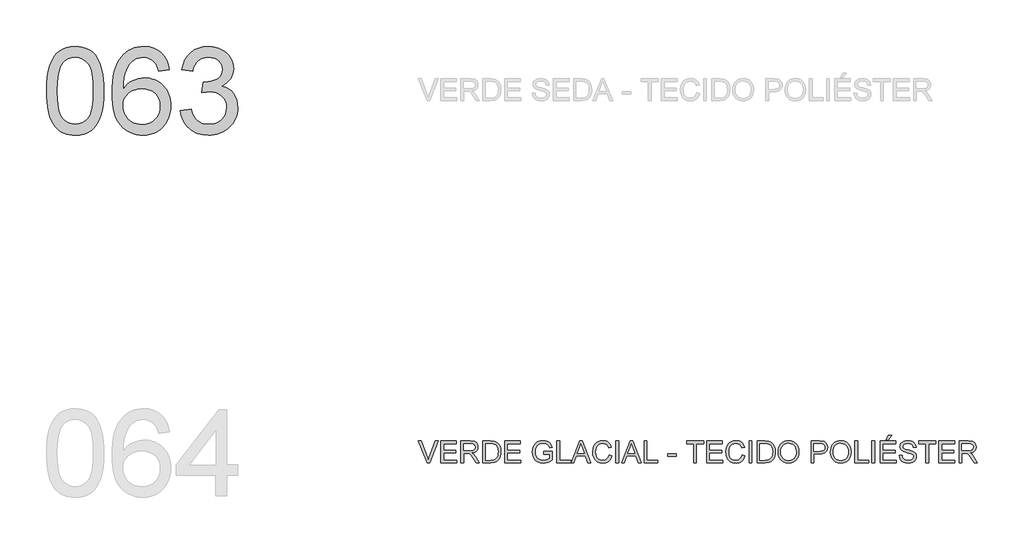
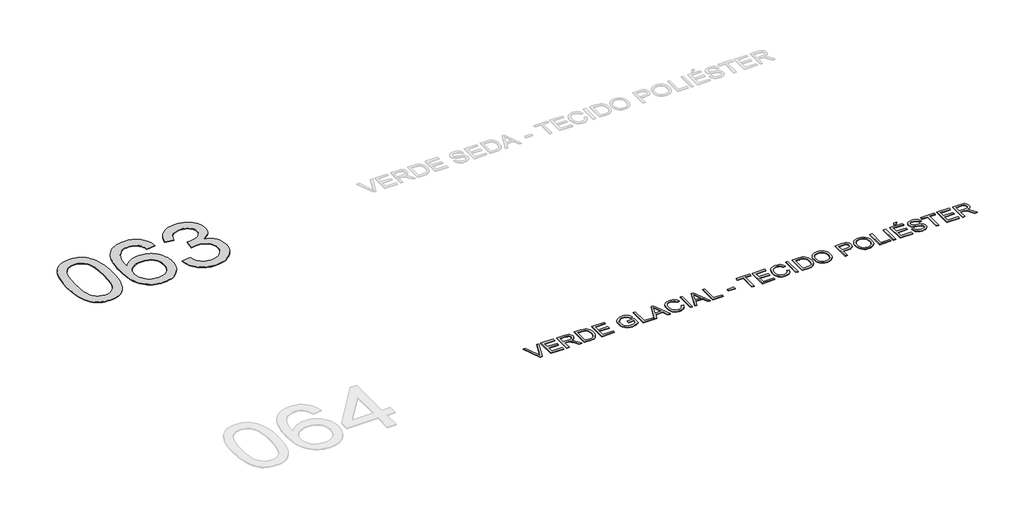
# One storey, part 39 of 67: 2 proxies.
"""IFC4 building model written with IfcOpenShell, lengths in millimetres."""

from ifc_helpers import new_model, si_unit, origin, origin_with_axes, place, context, project, spatial, polyline, outline, extrude, element, save

model = new_model("IFC4")

# Units and contexts
model_context = context("Model", 3, world=origin())
ifc_project = project(units=[si_unit("LENGTHUNIT", "METRE", prefix="MILLI")], contexts=[model_context])

# Site, building, storey
site = spatial("IfcSite", under=ifc_project)
building = spatial("IfcBuilding", under=site)
storey = spatial("IfcBuildingStorey", under=building, Name="Marelli - Linha COLAB - Planta Baixa", Elevation=0.0)

# Proxies
placement = place(None, origin())
element("IfcBuildingElementProxy", 1, Name="1200mm Arial", ObjectType="1200mm Arial", at=placement, inside=storey, context=model_context, shape_type="SweptSolid", body=[
    extrude(outline(polyline([(-275.30917, -72395.792664), (-272.540858, -72294.4319773), (-264.2359219, -72202.8385576), (-250.3943618, -72121.0124048), (-231.0161777, -72048.953519), (-206.1841431, -71986.073289), (-175.9810313, -71931.7831035), (-140.4068423, -71886.0829627), (-99.4615763, -71848.9728664), (-53.0072773, -71820.2596767), (-0.9059898, -71799.7502555), (56.8422864, -71787.4446027), (120.2375512, -71783.3427185), (167.8782696, -71785.7707396), (213.0909668, -71793.0548031), (255.8756429, -71805.194909), (296.2322977, -71822.1910572), (333.1860442, -71843.7581391), (365.7619948, -71869.6110463), (393.9601498, -71899.7497788), (417.7805089, -71934.1743365), (438.4186889, -71972.7467637), (457.070306, -72015.3291046), (488.413852, -72112.5235278), (500.388411, -72169.6831928), (508.9416673, -72235.9479371), (514.0736212, -72311.3177609), (515.7842725, -72395.792664), (513.0435516, -72496.5095573), (504.821389, -72587.6431245), (491.1177847, -72669.1933658), (471.9327386, -72741.1602811), (447.293842, -72804.0681023), (417.228686, -72858.4410612), (381.7372705, -72904.2791578), (340.8195956, -72941.5823921), (294.3101143, -72970.4887199), (242.0432798, -72991.1360968), (184.0190922, -73003.524523), (120.2375512, -73007.6539984), (77.5632398, -73005.8605737), (37.2433731, -73000.4802995), (-0.7220488, -72991.5131759), (-36.3330259, -72978.9592028), (-69.5895583, -72962.8183803), (-100.4916459, -72943.0907083), (-129.0392887, -72919.7761868), (-155.2324867, -72892.8748159), (-183.3754594, -72850.2786794), (-207.7660357, -72802.0999336), (-228.4042156, -72748.3385785), (-245.2899992, -72688.9946142), (-258.4233864, -72624.0680406), (-267.8043773, -72553.5588577), (-273.4329718, -72477.4670655), (-275.30917, -72395.792664)]), holes=[polyline([(-124.6247047, -72395.4983584), (-120.2101208, -72526.4919399), (-106.966369, -72632.5247279), (-97.0335551, -72676.1808245), (-84.8934493, -72713.5967226), (-70.5460515, -72744.7724225), (-53.9913617, -72769.7079239), (-16.614551, -72807.884878), (24.8825381, -72835.1541309), (70.4999055, -72851.5156826), (120.2375512, -72856.9695332), (169.975197, -72851.4972885), (215.5925644, -72835.0805545), (257.0896535, -72807.7193311), (294.4664642, -72769.4136183), (311.0211539, -72744.418336), (325.3685518, -72713.2104465), (337.5086576, -72675.7899498), (347.4414715, -72632.1568459), (360.6852233, -72526.2528166), (365.0998072, -72395.4983584), (360.8323761, -72267.9720648), (348.0300827, -72163.8062779), (338.4283626, -72120.4835744), (326.6929269, -72083.0009976), (312.8237757, -72051.3585475), (296.8209089, -72025.5562241), (260.0694976, -71985.5122689), (218.094162, -71956.9094438), (170.894902, -71939.7477487), (118.4717177, -71934.0271837), (68.9915893, -71939.067167), (24.1467741, -71954.187117), (-16.062728, -71979.3870337), (-51.6369169, -72014.666917), (-68.7434297, -72043.2145599), (-83.5690741, -72077.2068562), (-96.1138501, -72116.6438061), (-106.3777578, -72161.5254095), (-120.062968, -72267.6225769), (-124.6247047, -72395.4983584)])]), origin_with_axes(), (0.0, 0.0, 1.0), 10.0),
    extrude(outline(polyline([(1419.8910638, -72103.5472071), (1269.2065986, -72122.3827652), (1258.1333505, -72082.0812927), (1244.9263869, -72047.7027202), (1229.5857077, -72019.2470479), (1212.1113129, -71996.7142757), (1179.7193033, -71969.2886729), (1143.7588382, -71949.6989567), (1104.2299178, -71937.9451269), (1061.1325421, -71934.0271837), (1025.5951414, -71936.3080521), (991.0878102, -71943.1506572), (957.6105487, -71954.554999), (925.1633567, -71970.5210776), (895.5580531, -71996.6315022), (868.5463176, -72028.1681863), (844.1281502, -72065.1311297), (822.3035508, -72107.5203326), (804.2313478, -72158.1316981), (791.0703695, -72219.7611293), (782.8206157, -72292.4086263), (779.4820866, -72376.0741891), (808.2044734, -72338.2099347), (839.9250984, -72305.5512106), (874.6439617, -72278.0980167), (912.3610633, -72255.8503531), (952.0647276, -72238.6610669), (992.7432792, -72226.3830053), (1034.3967181, -72219.0161683), (1077.0250443, -72216.560556), (1113.9236084, -72218.2390176), (1149.424221, -72223.2744024), (1183.5268819, -72231.6667104), (1216.2315913, -72243.4159416), (1247.5383491, -72258.5220961), (1277.4471553, -72276.9851737), (1305.9580099, -72298.8051745), (1333.0709129, -72323.9820986), (1357.8339697, -72351.81697), (1379.2952856, -72381.6108131), (1397.4548606, -72413.3636278), (1412.3126947, -72447.0754142), (1423.8687879, -72482.7461721), (1432.1231401, -72520.3759017), (1437.0757515, -72559.9646029), (1438.726622, -72601.5122757), (1435.6180191, -72656.4462547), (1426.2922105, -72709.4120649), (1410.7491962, -72760.4097065), (1388.9889762, -72809.4391794), (1361.7841027, -72854.6702707), (1329.9071278, -72894.2727675), (1293.3580516, -72928.2466698), (1252.136874, -72956.5919775), (1207.1265119, -72978.9316116), (1159.209882, -72994.8884932), (1108.3869844, -73004.4626221), (1054.657819, -73007.6539984), (1008.6564748, -73005.5386769), (964.8302328, -72999.1927125), (923.1790932, -72988.6161052), (883.7030558, -72973.8088549), (846.4021208, -72954.7709616), (811.276288, -72931.5024254), (778.3255576, -72904.0032463), (747.5499294, -72872.2734242), (719.7173572, -72835.6875598), (695.5957947, -72793.6202536), (675.1852417, -72746.0715057), (658.4856984, -72693.0413161), (645.4971647, -72634.5296848), (636.2196406, -72570.5366117), (630.6531262, -72501.062097), (628.7976214, -72426.1061404), (630.8577606, -72342.1784618), (637.0381781, -72264.1828803), (647.3388739, -72192.1193959), (661.7598481, -72125.9880088), (680.3011007, -72065.7887188), (702.9626316, -72011.521526), (729.7444409, -71963.1864303), (760.6465284, -71920.7834319), (790.6611007, -71888.5707647), (823.1680735, -71860.6531198), (858.1674468, -71837.0304971), (895.6592207, -71817.7028968), (935.643395, -71802.6703188), (978.1199699, -71791.9327631), (1023.0889453, -71785.4902296), (1070.5503212, -71783.3427185), (1139.9512596, -71788.6586133), (1202.7671103, -71804.6062978), (1258.9978732, -71831.1857719), (1308.6435485, -71868.3970358), (1350.3613667, -71914.9892904), (1382.8085587, -71969.7117372), (1405.9851244, -72032.5643761), (1419.8910638, -72103.5472071)]), holes=[polyline([(779.4820866, -72599.157831), (781.6617874, -72632.9202011), (788.2008899, -72665.9284131), (799.099394, -72698.182467), (814.3572997, -72729.6823629), (833.2296461, -72758.9473756), (854.971472, -72784.4967801), (879.5827775, -72806.3305766), (907.0635625, -72824.4487648), (937.2390832, -72838.676601), (969.9345955, -72848.8393411), (1005.1500995, -72854.9369852), (1042.8855951, -72856.9695332), (1095.2627942, -72852.7572843), (1142.3240984, -72840.1205378), (1184.0695078, -72819.0592936), (1220.4990224, -72789.5735517), (1250.0491437, -72752.8589286), (1271.1563732, -72710.1110407), (1283.8207108, -72661.3298882), (1288.0421567, -72606.5154709), (1283.8758931, -72553.8439662), (1271.3771024, -72507.0769676), (1250.5457844, -72466.214475), (1221.3819392, -72431.2564884), (1184.84206, -72403.2514715), (1141.8826401, -72383.247888), (1092.5036792, -72371.2457379), (1036.7051776, -72367.2450212), (985.0269544, -72371.2457379), (937.4138271, -72383.247888), (893.865796, -72403.2514715), (854.3828608, -72431.2564884), (821.6137721, -72465.7546225), (798.2072802, -72505.2375576), (784.163385, -72549.7052938), (779.4820866, -72599.157831)])]), origin_with_axes(), (0.0, 0.0, 1.0), 10.0),
    extrude(outline(polyline([(1570.575529, -72668.6139517), (1721.2599943, -72649.7783935), (1736.1684121, -72700.9691731), (1754.9947732, -72744.4712191), (1777.7390776, -72780.2845313), (1804.4013252, -72808.4091098), (1835.5885213, -72829.6542951), (1871.9076713, -72844.8294274), (1913.3587751, -72853.9345067), (1959.9418327, -72856.9695332), (2014.5355208, -72852.7940725), (2063.243097, -72840.2676906), (2106.0645612, -72819.3903874), (2142.9999135, -72790.1621629), (2172.7431728, -72754.7719149), (2193.9883581, -72715.4085415), (2206.7354692, -72672.0720424), (2210.9845062, -72624.7624178), (2206.7722574, -72579.7060705), (2194.1355109, -72538.7148192), (2173.0742666, -72501.7886639), (2143.5885247, -72468.9276047), (2107.6096656, -72441.9526574), (2067.0690697, -72422.6848379), (2021.9667371, -72411.1241462), (1972.3026678, -72407.2705823), (1924.6987376, -72411.3908606), (1866.6469587, -72423.7516957), (1883.4223777, -72273.0672304), (1907.5554366, -72274.833064), (1953.8901739, -72272.1291314), (1997.8336782, -72264.0173334), (2039.3859496, -72250.49767), (2078.546988, -72231.5701414), (2111.7667321, -72207.0324123), (2135.4951208, -72176.6821477), (2149.732154, -72140.5193476), (2154.4778318, -72098.5440119), (2151.0381351, -72064.4689421), (2140.7190452, -72033.465687), (2123.5205619, -72005.5342465), (2099.4426853, -71980.6746207), (2069.9385493, -71960.266367), (2036.4612877, -71945.6890429), (1999.0109006, -71936.9426485), (1957.587388, -71934.0271837), (1916.2742399, -71936.9702397), (1878.5663354, -71945.7994075), (1844.4636744, -71960.5146873), (1813.966257, -71981.1160791), (1787.8282413, -72007.6035827), (1766.8037853, -72039.9771983), (1750.892889, -72078.2369258), (1740.0955524, -72122.3827652), (1589.4110872, -72103.5472071), (1607.271758, -72031.6078829), (1633.7776558, -71968.2402092), (1668.9287804, -71913.4441861), (1712.725132, -71867.2198134), (1763.7871529, -71830.5235844), (1820.7352858, -71804.3119922), (1883.5695305, -71788.5850369), (1952.2898872, -71783.3427185), (2000.6203843, -71785.9270895), (2047.019501, -71793.6802025), (2091.4872372, -71806.6020576), (2134.0235928, -71824.6926547), (2173.147843, -71847.2622151), (2207.3792627, -71873.6209601), (2236.7178518, -71903.7688896), (2261.1636104, -71937.7060036), (2280.4130358, -71974.0803359), (2294.1626253, -72011.5399201), (2302.4123791, -72050.0847561), (2305.162297, -72089.7148441), (2302.5503348, -72126.9812902), (2294.7144483, -72162.5554791), (2281.6546375, -72196.4374109), (2263.3709023, -72228.6270854), (2239.9736075, -72258.3703447), (2211.5731174, -72284.9130307), (2178.1694323, -72308.2551433), (2139.762552, -72328.3966825), (2189.9784443, -72344.1052437), (2234.0874955, -72366.5092572), (2272.0897056, -72395.608723), (2303.9850746, -72431.4036412), (2329.2217795, -72473.0110948), (2347.2479972, -72519.5481672), (2358.0637279, -72571.0148583), (2361.6689715, -72627.4111682), (2359.8663497, -72666.3882656), (2354.4584844, -72703.8570468), (2345.4453755, -72739.8175118), (2332.827023, -72774.2696607), (2316.603427, -72807.2134933), (2296.7745875, -72838.6490098), (2273.3405044, -72868.5762101), (2246.3011778, -72896.9950943), (2216.5073347, -72922.9307749), (2184.8097023, -72945.4083648), (2151.2082805, -72964.427864), (2115.7030695, -72979.9892724), (2078.2940691, -72992.09259), (2038.9812794, -73000.7378169), (1997.7647004, -73005.924953), (1954.644332, -73007.6539984), (1878.4191826, -73001.7494924), (1842.8449937, -72994.3688599), (1808.9630619, -72984.0359743), (1776.7733873, -72970.7508358), (1746.2759699, -72954.5134442), (1717.4708097, -72935.3237996), (1690.3579067, -72913.1819021), (1665.5028794, -72888.6947568), (1643.4713464, -72862.469369), (1624.2633077, -72834.5057389), (1607.8787633, -72804.8038663), (1594.3177133, -72773.3637513), (1583.5801576, -72740.1853938), (1570.575529, -72668.6139517)])), origin_with_axes(), (0.0, 0.0, 1.0), 10.0),
])
element("IfcBuildingElementProxy", 2, Name="300mm Arial", ObjectType="300mm Arial", at=placement, inside=storey, context=model_context, shape_type="SweptSolid", body=[
    extrude(outline(polyline([(4973.4001723, -77530.5663201), (4853.4706419, -77229.1973896), (4893.7905086, -77229.1973896), (4974.0623599, -77446.3213432), (4990.3227441, -77495.2496485), (5006.3623991, -77446.3213432), (5086.8549797, -77229.1973896), (5127.1748463, -77229.1973896), (5012.3220874, -77530.5663201), (4973.4001723, -77530.5663201)])), origin_with_axes(), (0.0, 0.0, 1.0), 10.0),
    extrude(outline(polyline([(5162.1972123, -77530.5663201), (5162.1972123, -77229.1973896), (5378.806131, -77229.1973896), (5378.806131, -77266.8685059), (5199.8683286, -77266.8685059), (5199.8683286, -77356.3374072), (5369.388352, -77356.3374072), (5369.388352, -77394.0085235), (5199.8683286, -77394.0085235), (5199.8683286, -77492.8952038), (5383.5150206, -77492.8952038), (5383.5150206, -77530.5663201), (5162.1972123, -77530.5663201)])), origin_with_axes(), (0.0, 0.0, 1.0), 10.0),
    extrude(outline(polyline([(5440.021695, -77530.5663201), (5440.021695, -77229.1973896), (5569.8840393, -77229.1973896), (5604.7868436, -77231.2299376), (5630.1798983, -77237.3275817), (5648.739545, -77248.5847708), (5663.1421251, -77266.0959537), (5672.3851602, -77287.8101885), (5675.4661719, -77311.6765329), (5670.3618093, -77341.3646099), (5655.0487212, -77365.9759154), (5643.448942, -77376.0052983), (5629.0670553, -77384.0205273), (5591.956959, -77394.0085235), (5613.3676912, -77410.1217548), (5643.9018968, -77448.8965171), (5694.1545773, -77530.5663201), (5650.3766199, -77530.5663201), (5611.1603992, -77468.0999573), (5582.8334856, -77426.750021), (5562.9310696, -77407.2154871), (5545.0152165, -77400.0417882), (5523.1630259, -77398.717413), (5477.6928113, -77398.717413), (5477.6928113, -77530.5663201), (5440.021695, -77530.5663201)]), holes=[polyline([(5477.6928113, -77361.0462967), (5562.0113646, -77361.0462967), (5586.227197, -77359.7127245), (5605.0167699, -77355.7120078), (5619.1618326, -77348.7774322), (5629.4441343, -77338.6422832), (5635.7073253, -77326.3826157), (5637.7950556, -77313.0744845), (5633.812733, -77294.6987789), (5621.8657652, -77279.8915286), (5601.3103588, -77270.1242616), (5571.5027201, -77266.8685059), (5477.6928113, -77266.8685059), (5477.6928113, -77361.0462967)])]), origin_with_axes(), (0.0, 0.0, 1.0), 10.0),
    extrude(outline(polyline([(5741.3906255, -77530.5663201), (5741.3906255, -77229.1973896), (5845.3540773, -77229.1973896), (5899.138425, -77233.5383972), (5923.1611193, -77241.9077126), (5943.4314172, -77255.0962821), (5964.2719323, -77278.0521186), (5979.1159708, -77306.5997614), (5988.0003209, -77340.1873876), (5990.961771, -77378.2631741), (5988.9568141, -77410.6091985), (5982.9419435, -77439.0740679), (5973.7816818, -77463.3082943), (5962.3405518, -77482.9623899), (5949.1703764, -77498.477813), (5934.8229785, -77510.2960221), (5918.3510622, -77519.0608107), (5898.8073312, -77525.4159721), (5850.3572724, -77530.5663201), (5741.3906255, -77530.5663201)]), holes=[polyline([(5779.0617418, -77492.8952038), (5845.7219593, -77492.8952038), (5873.2947148, -77491.5340404), (5894.2088063, -77487.4505502), (5909.9909439, -77480.8838566), (5922.1678379, -77472.0730828), (5935.2552399, -77455.7667134), (5945.0868862, -77434.6594839), (5951.2397126, -77408.6594239), (5953.2906547, -77377.6745629), (5949.2715439, -77336.6189322), (5937.2142115, -77306.3054558), (5919.3995259, -77285.4833349), (5898.1083554, -77272.9017706), (5876.4401059, -77268.3768221), (5844.6918897, -77266.8685059), (5779.0617418, -77266.8685059), (5779.0617418, -77492.8952038)])]), origin_with_axes(), (0.0, 0.0, 1.0), 10.0),
    extrude(outline(polyline([(6042.7595559, -77530.5663201), (6042.7595559, -77229.1973896), (6259.3684747, -77229.1973896), (6259.3684747, -77266.8685059), (6080.4306722, -77266.8685059), (6080.4306722, -77356.3374072), (6249.9506956, -77356.3374072), (6249.9506956, -77394.0085235), (6080.4306722, -77394.0085235), (6080.4306722, -77492.8952038), (6264.0773642, -77492.8952038), (6264.0773642, -77530.5663201), (6042.7595559, -77530.5663201)])), origin_with_axes(), (0.0, 0.0, 1.0), 10.0),
    extrude(outline(polyline([(6579.5729633, -77412.8440816), (6579.5729633, -77375.1729653), (6702.0040913, -77375.1729653), (6702.0040913, -77487.8184322), (6672.2516349, -77508.5117945), (6641.5610795, -77523.355833), (6610.0060013, -77532.2953654), (6577.6599769, -77535.2752096), (6535.3995327, -77530.5387289), (6497.2041846, -77516.3292869), (6465.4743625, -77493.1435241), (6442.6104965, -77461.4780814), (6428.7873305, -77423.4942654), (6424.1796085, -77381.3533828), (6428.7689364, -77338.9089976), (6442.5369201, -77299.4260625), (6464.9133424, -77266.3074859), (6495.3279864, -77242.9561762), (6532.3737033, -77229.1054191), (6574.6433446, -77224.4885001), (6605.6741908, -77227.1648416), (6633.5780402, -77235.1938661), (6657.0765026, -77247.9961596), (6674.8911882, -77264.9923078), (6688.0705607, -77287.0008481), (6697.6630837, -77314.8403181), (6662.9350234, -77324.6259792), (6655.1819103, -77304.7695485), (6645.7549342, -77289.7875542), (6633.2837346, -77278.493577), (6616.397951, -77269.7011973), (6596.2656088, -77264.0450116), (6574.0547334, -77262.1596164), (6548.0546734, -77264.1921644), (6525.8254038, -77270.2898085), (6507.4496981, -77279.6891935), (6493.0103298, -77291.6269642), (6473.6229487, -77320.6528536), (6464.7937808, -77349.0901318), (6461.8507248, -77379.8082784), (6465.391589, -77415.8331228), (6476.0141816, -77445.4752146), (6493.3966059, -77468.5230216), (6517.2169651, -77484.7650117), (6545.0932233, -77494.3943229), (6574.6433446, -77497.6040933), (6600.7353751, -77495.1852692), (6626.1836121, -77487.9287968), (6648.2841229, -77477.9316036), (6664.332975, -77467.2906169), (6664.332975, -77412.8440816), (6579.5729633, -77412.8440816)])), origin_with_axes(), (0.0, 0.0, 1.0), 10.0),
    extrude(outline(polyline([(6763.2196553, -77530.5663201), (6763.2196553, -77229.1973896), (6800.8907716, -77229.1973896), (6800.8907716, -77492.8952038), (6951.5752368, -77492.8952038), (6951.5752368, -77530.5663201), (6763.2196553, -77530.5663201)])), origin_with_axes(), (0.0, 0.0, 1.0), 10.0),
    extrude(outline(polyline([(6958.8593003, -77530.5663201), (7079.1567127, -77229.1973896), (7111.2360227, -77229.1973896), (7231.5334351, -77530.5663201), (7191.7286033, -77530.5663201), (7157.2212721, -77436.3885293), (7033.0978869, -77436.3885293), (6998.6641322, -77530.5663201), (6958.8593003, -77530.5663201)]), holes=[polyline([(7046.93025, -77398.717413), (7143.4624855, -77398.717413), (7116.3127943, -77324.6259792), (7095.1963677, -77266.8685059), (7076.434386, -77318.1512561), (7046.93025, -77398.717413)])]), origin_with_axes(), (0.0, 0.0, 1.0), 10.0),
    extrude(outline(polyline([(7483.6797546, -77423.4390831), (7521.3508709, -77433.1511677), (7513.896662, -77456.5783531), (7503.9684467, -77477.0486868), (7491.5662249, -77494.5621691), (7476.6899967, -77509.1187997), (7459.6754545, -77520.5622291), (7440.8582904, -77528.7361071), (7420.2385046, -77533.640434), (7397.816097, -77535.2752096), (7354.120913, -77530.3271968), (7319.4204438, -77515.4831583), (7292.8225755, -77491.2581289), (7273.4351944, -77458.1671434), (7261.5985912, -77419.2636224), (7257.6530568, -77377.6009865), (7262.113626, -77333.6574821), (7275.4953336, -77295.7104543), (7297.0992037, -77264.9647166), (7326.2262607, -77242.6250824), (7360.77038, -77229.0226457), (7398.6254374, -77224.4885001), (7439.9293884, -77230.3562179), (7457.8981246, -77237.6908652), (7474.0780346, -77247.9593714), (7488.2024039, -77260.8904235), (7500.0045182, -77276.2127086), (7516.6419814, -77314.0309777), (7478.9708651, -77323.0072984), (7465.9110543, -77295.5357104), (7448.0687775, -77276.6909552), (7425.2233056, -77265.7924511), (7397.1539094, -77262.1596164), (7364.7986879, -77266.1879242), (7338.2192137, -77278.2728478), (7318.0500834, -77297.1451941), (7304.9258932, -77321.5357704), (7297.7246031, -77349.1085259), (7295.3241731, -77377.5274101), (7298.1660615, -77412.3290468), (7306.6917268, -77442.421794), (7321.2230656, -77466.6560205), (7342.0819747, -77483.8820949), (7367.0887533, -77494.1735937), (7394.0637006, -77497.6040933), (7425.5084141, -77492.931992), (7451.7108093, -77478.9156879), (7471.4936635, -77455.702334), (7483.6797546, -77423.4390831)])), origin_with_axes(), (0.0, 0.0, 1.0), 10.0),
    extrude(outline(polyline([(7577.8575454, -77530.5663201), (7577.8575454, -77229.1973896), (7615.5286617, -77229.1973896), (7615.5286617, -77530.5663201), (7577.8575454, -77530.5663201)])), origin_with_axes(), (0.0, 0.0, 1.0), 10.0),
    extrude(outline(polyline([(7655.774952, -77530.5663201), (7776.0723644, -77229.1973896), (7808.1516744, -77229.1973896), (7928.4490868, -77530.5663201), (7888.6442549, -77530.5663201), (7854.1369238, -77436.3885293), (7730.0135386, -77436.3885293), (7695.5797839, -77530.5663201), (7655.774952, -77530.5663201)]), holes=[polyline([(7743.8459016, -77398.717413), (7840.3781372, -77398.717413), (7813.2284459, -77324.6259792), (7792.1120194, -77266.8685059), (7773.3500376, -77318.1512561), (7743.8459016, -77398.717413)])]), origin_with_axes(), (0.0, 0.0, 1.0), 10.0),
    extrude(outline(polyline([(7968.6953771, -77530.5663201), (7968.6953771, -77229.1973896), (8006.3664934, -77229.1973896), (8006.3664934, -77492.8952038), (8157.0509586, -77492.8952038), (8157.0509586, -77530.5663201), (7968.6953771, -77530.5663201)])), origin_with_axes(), (0.0, 0.0, 1.0), 10.0),
    extrude(outline(polyline([(8293.6087552, -77441.0974188), (8293.6087552, -77403.4263025), (8411.3309937, -77403.4263025), (8411.3309937, -77441.0974188), (8293.6087552, -77441.0974188)])), origin_with_axes(), (0.0, 0.0, 1.0), 10.0),
    extrude(outline(polyline([(8651.4843601, -77530.5663201), (8651.4843601, -77266.8685059), (8552.5976798, -77266.8685059), (8552.5976798, -77229.1973896), (8788.0421567, -77229.1973896), (8788.0421567, -77266.8685059), (8689.1554764, -77266.8685059), (8689.1554764, -77530.5663201), (8651.4843601, -77530.5663201)])), origin_with_axes(), (0.0, 0.0, 1.0), 10.0),
    extrude(outline(polyline([(8830.4221626, -77530.5663201), (8830.4221626, -77229.1973896), (9047.0310813, -77229.1973896), (9047.0310813, -77266.8685059), (8868.0932789, -77266.8685059), (8868.0932789, -77356.3374072), (9037.6133023, -77356.3374072), (9037.6133023, -77394.0085235), (8868.0932789, -77394.0085235), (8868.0932789, -77492.8952038), (9051.7399709, -77492.8952038), (9051.7399709, -77530.5663201), (8830.4221626, -77530.5663201)])), origin_with_axes(), (0.0, 0.0, 1.0), 10.0),
    extrude(outline(polyline([(9320.1466746, -77423.4390831), (9357.8177909, -77433.1511677), (9350.3635819, -77456.5783531), (9340.4353666, -77477.0486868), (9328.0331448, -77494.5621691), (9313.1569166, -77509.1187997), (9296.1423744, -77520.5622291), (9277.3252103, -77528.7361071), (9256.7054245, -77533.640434), (9234.2830169, -77535.2752096), (9190.5878329, -77530.3271968), (9155.8873637, -77515.4831583), (9129.2894955, -77491.2581289), (9109.9021143, -77458.1671434), (9098.0655111, -77419.2636224), (9094.1199767, -77377.6009865), (9098.5805459, -77333.6574821), (9111.9622535, -77295.7104543), (9133.5661237, -77264.9647166), (9162.6931806, -77242.6250824), (9197.2373, -77229.0226457), (9235.0923573, -77224.4885001), (9276.3963083, -77230.3562179), (9294.3650445, -77237.6908652), (9310.5449545, -77247.9593714), (9324.6693238, -77260.8904235), (9336.4714381, -77276.2127086), (9353.1089013, -77314.0309777), (9315.437785, -77323.0072984), (9302.3779742, -77295.5357104), (9284.5356974, -77276.6909552), (9261.6902255, -77265.7924511), (9233.6208293, -77262.1596164), (9201.2656078, -77266.1879242), (9174.6861337, -77278.2728478), (9154.5170033, -77297.1451941), (9141.3928131, -77321.5357704), (9134.191523, -77349.1085259), (9131.791093, -77377.5274101), (9134.6329814, -77412.3290468), (9143.1586467, -77442.421794), (9157.6899855, -77466.6560205), (9178.5488946, -77483.8820949), (9203.5556732, -77494.1735937), (9230.5306205, -77497.6040933), (9261.9753341, -77492.931992), (9288.1777292, -77478.9156879), (9307.9605835, -77455.702334), (9320.1466746, -77423.4390831)])), origin_with_axes(), (0.0, 0.0, 1.0), 10.0),
    extrude(outline(polyline([(9414.3244653, -77530.5663201), (9414.3244653, -77229.1973896), (9451.9955816, -77229.1973896), (9451.9955816, -77530.5663201), (9414.3244653, -77530.5663201)])), origin_with_axes(), (0.0, 0.0, 1.0), 10.0),
    extrude(outline(polyline([(9527.3378142, -77530.5663201), (9527.3378142, -77229.1973896), (9631.3012661, -77229.1973896), (9685.0856138, -77233.5383972), (9709.1083081, -77241.9077126), (9729.378606, -77255.0962821), (9750.219121, -77278.0521186), (9765.0631595, -77306.5997614), (9773.9475097, -77340.1873876), (9776.9089598, -77378.2631741), (9774.9040029, -77410.6091985), (9768.8891323, -77439.0740679), (9759.7288706, -77463.3082943), (9748.2877405, -77482.9623899), (9735.1175651, -77498.477813), (9720.7701673, -77510.2960221), (9704.298251, -77519.0608107), (9684.75452, -77525.4159721), (9636.3044612, -77530.5663201), (9527.3378142, -77530.5663201)]), holes=[polyline([(9565.0089305, -77492.8952038), (9631.6691481, -77492.8952038), (9659.2419036, -77491.5340404), (9680.155995, -77487.4505502), (9695.9381326, -77480.8838566), (9708.1150267, -77472.0730828), (9721.2024286, -77455.7667134), (9731.034075, -77434.6594839), (9737.1869013, -77408.6594239), (9739.2378435, -77377.6745629), (9735.2187327, -77336.6189322), (9723.1614003, -77306.3054558), (9705.3467147, -77285.4833349), (9684.0555442, -77272.9017706), (9662.3872947, -77268.3768221), (9630.6390785, -77266.8685059), (9565.0089305, -77266.8685059), (9565.0089305, -77492.8952038)])]), origin_with_axes(), (0.0, 0.0, 1.0), 10.0),
    extrude(outline(polyline([(9814.5800761, -77383.8549804), (9817.0908707, -77348.5061192), (9824.6232545, -77317.213157), (9837.1772276, -77289.9760937), (9854.7527899, -77266.7949295), (9876.2968793, -77248.2858666), (9900.7564334, -77235.0651074), (9928.1314524, -77227.1326519), (9958.4219362, -77224.4885001), (9997.9508566, -77229.454907), (10033.3962868, -77244.3541278), (10062.8268464, -77268.1376988), (10084.3111549, -77299.7571563), (10097.4445422, -77337.68579), (10101.8223379, -77380.3968896), (10097.2146159, -77423.6782064), (10083.39145, -77462.140269), (10061.1161951, -77493.8149087), (10031.1522066, -77516.733957), (9996.010279, -77530.6398965), (9958.201207, -77535.2752096), (9918.0652813, -77530.1524528), (9882.417516, -77514.7841825), (9853.0605328, -77490.5591531), (9831.7969534, -77458.8661192), (9818.8842954, -77422.3998164), (9814.5800761, -77383.8549804)]), holes=[polyline([(9852.2511924, -77384.2228624), (9854.1342883, -77409.1974513), (9859.7835762, -77431.3669401), (9869.199056, -77450.7313286), (9882.3807278, -77467.2906169), (9898.4042879, -77480.5527628), (9916.345433, -77490.0257242), (9936.2041629, -77495.709501), (9957.9804778, -77497.6040933), (9980.1292732, -77495.6911069), (10000.2225279, -77489.9521478), (10018.260242, -77480.3872159), (10034.2424154, -77466.9963113), (10047.3275181, -77450.0875351), (10056.6740201, -77429.9689885), (10062.2819212, -77406.6406715), (10064.1512216, -77380.102584), (10060.9506482, -77346.7540812), (10051.3489282, -77317.9305269), (10035.5943817, -77294.358488), (10013.9353293, -77276.7645316), (9987.8065106, -77265.8108452), (9958.6426654, -77262.1596164), (9937.6228079, -77263.9185522), (9918.1204636, -77269.1953595), (9900.1356326, -77277.9900385), (9883.6683148, -77290.302589), (9869.9233237, -77306.7262208), (9860.105473, -77327.8541437), (9854.2147625, -77353.6863575), (9852.2511924, -77384.2228624)])]), origin_with_axes(), (0.0, 0.0, 1.0), 10.0),
    extrude(outline(polyline([(10271.3423613, -77530.5663201), (10271.3423613, -77229.1973896), (10383.031335, -77229.1973896), (10428.0600912, -77232.0668692), (10448.1372511, -77237.4287493), (10464.6643498, -77246.1567496), (10477.9724809, -77258.6463433), (10488.3927384, -77275.2930036), (10495.124979, -77294.9287051), (10497.3690591, -77316.3854225), (10495.8538452, -77334.8852883), (10491.3082033, -77351.9044291), (10483.7321334, -77367.4428449), (10473.1256356, -77381.5005356), (10458.5644064, -77393.1531978), (10439.1241422, -77401.476528), (10414.8048431, -77406.470526), (10385.606509, -77408.1351921), (10309.0134776, -77408.1351921), (10309.0134776, -77530.5663201), (10271.3423613, -77530.5663201)]), holes=[polyline([(10309.0134776, -77370.4640758), (10387.813801, -77370.4640758), (10421.2174861, -77367.005985), (10443.2904058, -77356.6317127), (10455.5960586, -77339.9850525), (10459.6979428, -77317.7097977), (10457.2791187, -77300.7872259), (10450.0226463, -77286.5134045), (10438.8298366, -77275.7712502), (10424.6020005, -77269.4436799), (10386.9308842, -77266.8685059), (10309.0134776, -77266.8685059), (10309.0134776, -77370.4640758)])]), origin_with_axes(), (0.0, 0.0, 1.0), 10.0),
    extrude(outline(polyline([(10535.0401754, -77383.8549804), (10537.55097, -77348.5061192), (10545.0833539, -77317.213157), (10557.637327, -77289.9760937), (10575.2128893, -77266.7949295), (10596.7569786, -77248.2858666), (10621.2165328, -77235.0651074), (10648.5915518, -77227.1326519), (10678.8820355, -77224.4885001), (10718.4109559, -77229.454907), (10753.8563862, -77244.3541278), (10783.2869458, -77268.1376988), (10804.7712543, -77299.7571563), (10817.9046415, -77337.68579), (10822.2824373, -77380.3968896), (10817.6747153, -77423.6782064), (10803.8515493, -77462.140269), (10781.5762945, -77493.8149087), (10751.612306, -77516.733957), (10716.4703784, -77530.6398965), (10678.6613063, -77535.2752096), (10638.5253807, -77530.1524528), (10602.8776153, -77514.7841825), (10573.5206321, -77490.5591531), (10552.2570528, -77458.8661192), (10539.3443948, -77422.3998164), (10535.0401754, -77383.8549804)]), holes=[polyline([(10572.7112917, -77384.2228624), (10574.5943877, -77409.1974513), (10580.2436756, -77431.3669401), (10589.6591554, -77450.7313286), (10602.8408271, -77467.2906169), (10618.8643873, -77480.5527628), (10636.8055323, -77490.0257242), (10656.6642623, -77495.709501), (10678.4405771, -77497.6040933), (10700.5893725, -77495.6911069), (10720.6826272, -77489.9521478), (10738.7203413, -77480.3872159), (10754.7025147, -77466.9963113), (10767.7876175, -77450.0875351), (10777.1341194, -77429.9689885), (10782.7420206, -77406.6406715), (10784.611321, -77380.102584), (10781.4107476, -77346.7540812), (10771.8090275, -77317.9305269), (10756.0544811, -77294.358488), (10734.3954286, -77276.7645316), (10708.2666099, -77265.8108452), (10679.1027647, -77262.1596164), (10658.0829072, -77263.9185522), (10638.580563, -77269.1953595), (10620.5957319, -77277.9900385), (10604.1284141, -77290.302589), (10590.3834231, -77306.7262208), (10580.5655723, -77327.8541437), (10574.6748619, -77353.6863575), (10572.7112917, -77384.2228624)])]), origin_with_axes(), (0.0, 0.0, 1.0), 10.0),
    extrude(outline(polyline([(10874.0802222, -77530.5663201), (10874.0802222, -77229.1973896), (10911.7513385, -77229.1973896), (10911.7513385, -77492.8952038), (11062.4358037, -77492.8952038), (11062.4358037, -77530.5663201), (10874.0802222, -77530.5663201)])), origin_with_axes(), (0.0, 0.0, 1.0), 10.0),
    extrude(outline(polyline([(11109.5246991, -77530.5663201), (11109.5246991, -77229.1973896), (11147.1958154, -77229.1973896), (11147.1958154, -77530.5663201), (11109.5246991, -77530.5663201)])), origin_with_axes(), (0.0, 0.0, 1.0), 10.0),
    extrude(outline(polyline([(11222.538048, -77530.5663201), (11222.538048, -77229.1973896), (11439.1469668, -77229.1973896), (11439.1469668, -77266.8685059), (11260.2091643, -77266.8685059), (11260.2091643, -77356.3374072), (11429.7291877, -77356.3374072), (11429.7291877, -77394.0085235), (11260.2091643, -77394.0085235), (11260.2091643, -77492.8952038), (11443.8558563, -77492.8952038), (11443.8558563, -77530.5663201), (11222.538048, -77530.5663201)])), origin_with_axes(), (0.0, 0.0, 1.0), 10.0),
    extrude(outline(polyline([(11307.2980597, -77210.3618315), (11335.5513969, -77153.855157), (11382.6402923, -77153.855157), (11335.5513969, -77210.3618315), (11307.2980597, -77210.3618315)])), origin_with_axes(), (0.0, 0.0, 1.0), 10.0),
    extrude(outline(polyline([(11486.2358622, -77426.9707502), (11523.9069785, -77426.9707502), (11528.2295919, -77447.8756446), (11536.0470843, -77464.6786547), (11548.2423724, -77478.0143771), (11565.6983731, -77488.517408), (11587.0355288, -77495.332422), (11610.8742821, -77497.6040933), (11631.8619499, -77495.884245), (11650.2376556, -77490.7247), (11665.1276794, -77482.5577197), (11675.6583015, -77471.8155654), (11681.9214924, -77459.4823216), (11684.0092228, -77446.5420724), (11682.4457243, -77433.932917), (11677.7552288, -77423.0344129), (11668.2270852, -77413.7361954), (11652.150642, -77405.9279001), (11597.2994365, -77391.5437141), (11561.2929862, -77382.0247675), (11538.2543763, -77372.9656733), (11519.5015916, -77360.2921386), (11506.2118545, -77344.9330653), (11498.2931946, -77327.2195472), (11495.6536412, -77307.4826782), (11498.9185939, -77285.4189555), (11508.7134521, -77264.845155), (11524.7806982, -77247.4075484), (11546.862815, -77234.7524077), (11573.3687127, -77227.054477), (11602.7073018, -77224.4885001), (11634.4923062, -77227.1740386), (11662.3041851, -77235.2306543), (11685.149657, -77248.4928003), (11702.0354405, -77266.7949295), (11712.7224125, -77288.9966079), (11716.9714495, -77313.9574013), (11679.3003332, -77313.9574013), (11672.3841517, -77291.4798114), (11657.9631775, -77275.2562154), (11635.4304053, -77265.4337661), (11604.1788298, -77262.1596164), (11572.1914903, -77265.3969779), (11550.2473293, -77275.1090626), (11537.5554005, -77289.4012781), (11533.3247575, -77306.3790322), (11536.3229958, -77320.8551887), (11545.3177106, -77332.4986539), (11566.5812899, -77342.9097143), (11606.8275802, -77353.541504), (11648.3614574, -77363.6398648), (11673.4877977, -77372.4506385), (11694.9629092, -77386.1174547), (11709.9449034, -77402.9848441), (11718.7464802, -77422.868866), (11721.6803391, -77445.5855792), (11718.3050218, -77468.8081301), (11708.1790698, -77490.6511236), (11691.7163506, -77509.4498935), (11669.3307312, -77523.539774), (11642.4109662, -77532.3413507), (11612.3458101, -77535.2752096), (11575.4380489, -77532.1114244), (11545.0601932, -77522.620069), (11520.862755, -77506.764355), (11502.4962463, -77484.5074943), (11490.7056284, -77457.3945912), (11486.2358622, -77426.9707502)])), origin_with_axes(), (0.0, 0.0, 1.0), 10.0),
    extrude(outline(polyline([(11853.5292461, -77530.5663201), (11853.5292461, -77266.8685059), (11754.6425658, -77266.8685059), (11754.6425658, -77229.1973896), (11990.0870428, -77229.1973896), (11990.0870428, -77266.8685059), (11891.2003624, -77266.8685059), (11891.2003624, -77530.5663201), (11853.5292461, -77530.5663201)])), origin_with_axes(), (0.0, 0.0, 1.0), 10.0),
    extrude(outline(polyline([(12032.4670486, -77530.5663201), (12032.4670486, -77229.1973896), (12249.0759674, -77229.1973896), (12249.0759674, -77266.8685059), (12070.1381649, -77266.8685059), (12070.1381649, -77356.3374072), (12239.6581883, -77356.3374072), (12239.6581883, -77394.0085235), (12070.1381649, -77394.0085235), (12070.1381649, -77492.8952038), (12253.7848569, -77492.8952038), (12253.7848569, -77530.5663201), (12032.4670486, -77530.5663201)])), origin_with_axes(), (0.0, 0.0, 1.0), 10.0),
    extrude(outline(polyline([(12310.2915314, -77530.5663201), (12310.2915314, -77229.1973896), (12440.1538757, -77229.1973896), (12475.0566799, -77231.2299376), (12500.4497347, -77237.3275817), (12519.0093813, -77248.5847708), (12533.4119614, -77266.0959537), (12542.6549966, -77287.8101885), (12545.7360083, -77311.6765329), (12540.6316456, -77341.3646099), (12525.3185575, -77365.9759154), (12513.7187784, -77376.0052983), (12499.3368916, -77384.0205273), (12462.2267954, -77394.0085235), (12483.6375275, -77410.1217548), (12514.1717331, -77448.8965171), (12564.4244136, -77530.5663201), (12520.6464562, -77530.5663201), (12481.4302355, -77468.0999573), (12453.1033219, -77426.750021), (12433.2009059, -77407.2154871), (12415.2850528, -77400.0417882), (12393.4328623, -77398.717413), (12347.9626477, -77398.717413), (12347.9626477, -77530.5663201), (12310.2915314, -77530.5663201)]), holes=[polyline([(12347.9626477, -77361.0462967), (12432.281201, -77361.0462967), (12456.4970333, -77359.7127245), (12475.2866062, -77355.7120078), (12489.4316689, -77348.7774322), (12499.7139707, -77338.6422832), (12505.9771616, -77326.3826157), (12508.064892, -77313.0744845), (12504.0825694, -77294.6987789), (12492.1356016, -77279.8915286), (12471.5801951, -77270.1242616), (12441.7725564, -77266.8685059), (12347.9626477, -77266.8685059), (12347.9626477, -77361.0462967)])]), origin_with_axes(), (0.0, 0.0, 1.0), 10.0),
])

save(model, "model.ifc")
